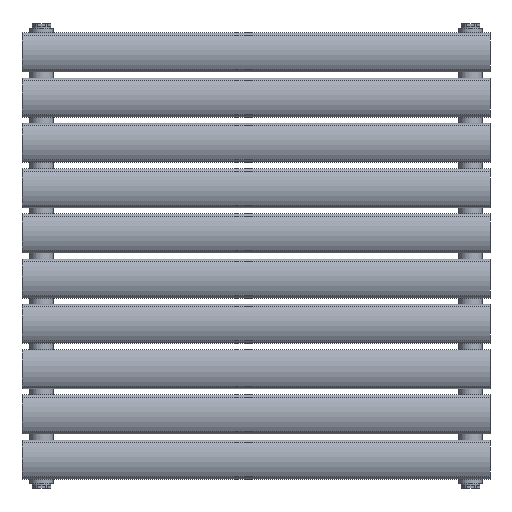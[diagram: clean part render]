
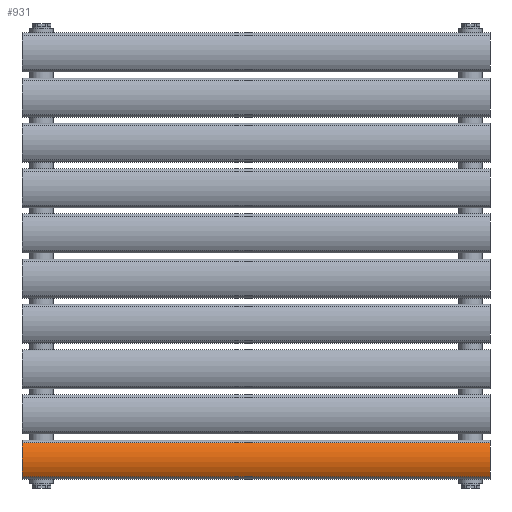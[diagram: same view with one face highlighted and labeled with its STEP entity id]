
A CAD part, top view. The second image highlights one B-rep face of the part: STEP entity #931.
In plain terms, the highlighted cylindrical face has radius 39.5 mm (diameter 79 mm), a partial arc.
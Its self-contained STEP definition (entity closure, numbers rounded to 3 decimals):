
#131=LINE('',#2310,#163);
#132=LINE('',#2314,#164);
#163=VECTOR('',#1170,10.);
#164=VECTOR('',#1173,10.);
#237=CIRCLE('',#1027,39.5);
#238=CIRCLE('',#1028,39.5);
#331=FACE_OUTER_BOUND('',#414,.T.);
#414=EDGE_LOOP('',(#754,#755,#756,#757));
#530=VERTEX_POINT('',#2308);
#531=VERTEX_POINT('',#2309);
#532=VERTEX_POINT('',#2311);
#533=VERTEX_POINT('',#2313);
#615=EDGE_CURVE('',#530,#531,#131,.T.);
#616=EDGE_CURVE('',#532,#530,#237,.T.);
#617=EDGE_CURVE('',#533,#532,#132,.T.);
#618=EDGE_CURVE('',#531,#533,#238,.T.);
#754=ORIENTED_EDGE('',*,*,#615,.F.);
#755=ORIENTED_EDGE('',*,*,#616,.F.);
#756=ORIENTED_EDGE('',*,*,#617,.F.);
#757=ORIENTED_EDGE('',*,*,#618,.F.);
#904=CYLINDRICAL_SURFACE('',#1026,39.5);
#931=ADVANCED_FACE('',(#331),#904,.T.);
#1026=AXIS2_PLACEMENT_3D('',#2307,#1168,#1169);
#1027=AXIS2_PLACEMENT_3D('',#2312,#1171,#1172);
#1028=AXIS2_PLACEMENT_3D('',#2315,#1174,#1175);
#1168=DIRECTION('center_axis',(0.,0.,1.));
#1169=DIRECTION('ref_axis',(-0.552,-0.834,0.));
#1170=DIRECTION('',(0.,0.,-1.));
#1171=DIRECTION('center_axis',(0.,0.,1.));
#1172=DIRECTION('ref_axis',(-0.552,-0.834,0.));
#1173=DIRECTION('',(0.,0.,1.));
#1174=DIRECTION('center_axis',(0.,0.,-1.));
#1175=DIRECTION('ref_axis',(-0.552,-0.834,0.));
#2307=CARTESIAN_POINT('Origin',(0.,14.5,0.));
#2308=CARTESIAN_POINT('',(21.816,-18.429,300.));
#2309=CARTESIAN_POINT('',(21.816,-18.429,-300.));
#2310=CARTESIAN_POINT('',(21.816,-18.429,0.));
#2311=CARTESIAN_POINT('',(-21.816,-18.429,300.));
#2312=CARTESIAN_POINT('Origin',(0.,14.5,300.));
#2313=CARTESIAN_POINT('',(-21.816,-18.429,-300.));
#2314=CARTESIAN_POINT('',(-21.816,-18.429,0.));
#2315=CARTESIAN_POINT('Origin',(0.,14.5,-300.));
